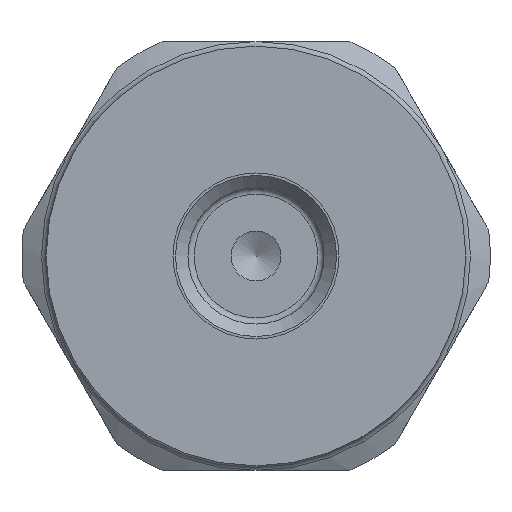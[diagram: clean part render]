
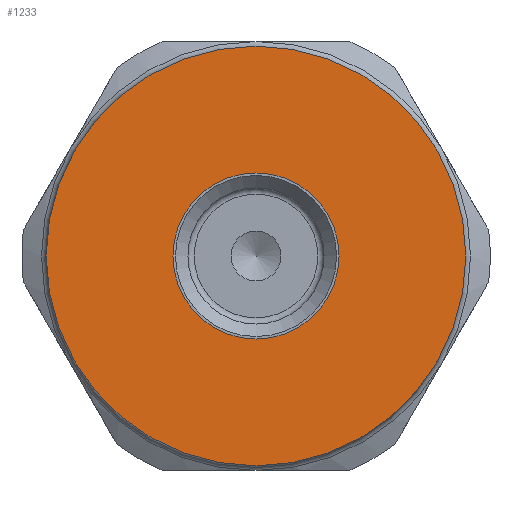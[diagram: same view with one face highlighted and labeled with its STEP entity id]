
A CAD part, front view. The second image highlights one B-rep face of the part: STEP entity #1233.
In plain terms, the highlighted planar face has unit normal (0, -1, 0).
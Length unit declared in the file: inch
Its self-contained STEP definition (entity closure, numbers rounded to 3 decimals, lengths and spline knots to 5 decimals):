
#74=FACE_BOUND('',#315,.T.);
#92=PLANE('',#1346);
#237=FACE_OUTER_BOUND('',#314,.T.);
#314=EDGE_LOOP('',(#853,#854));
#315=EDGE_LOOP('',(#855,#856));
#401=CIRCLE('',#1347,0.336);
#402=CIRCLE('',#1348,0.336);
#403=CIRCLE('',#1349,0.133);
#404=CIRCLE('',#1350,0.133);
#510=VERTEX_POINT('',#2091);
#511=VERTEX_POINT('',#2092);
#512=VERTEX_POINT('',#2095);
#513=VERTEX_POINT('',#2096);
#642=EDGE_CURVE('',#510,#511,#401,.T.);
#643=EDGE_CURVE('',#511,#510,#402,.T.);
#644=EDGE_CURVE('',#512,#513,#403,.T.);
#645=EDGE_CURVE('',#513,#512,#404,.T.);
#853=ORIENTED_EDGE('',*,*,#642,.T.);
#854=ORIENTED_EDGE('',*,*,#643,.T.);
#855=ORIENTED_EDGE('',*,*,#644,.T.);
#856=ORIENTED_EDGE('',*,*,#645,.T.);
#1233=ADVANCED_FACE('',(#237,#74),#92,.T.);
#1346=AXIS2_PLACEMENT_3D('',#2090,#1577,#1578);
#1347=AXIS2_PLACEMENT_3D('',#2093,#1579,#1580);
#1348=AXIS2_PLACEMENT_3D('',#2094,#1581,#1582);
#1349=AXIS2_PLACEMENT_3D('',#2097,#1583,#1584);
#1350=AXIS2_PLACEMENT_3D('',#2098,#1585,#1586);
#1577=DIRECTION('center_axis',(0.,-1.,0.));
#1578=DIRECTION('ref_axis',(0.,0.,-1.));
#1579=DIRECTION('center_axis',(0.,-1.,0.));
#1580=DIRECTION('ref_axis',(1.,0.,0.));
#1581=DIRECTION('center_axis',(0.,-1.,0.));
#1582=DIRECTION('ref_axis',(1.,0.,0.));
#1583=DIRECTION('center_axis',(0.,1.,0.));
#1584=DIRECTION('ref_axis',(1.,0.,0.));
#1585=DIRECTION('center_axis',(0.,1.,0.));
#1586=DIRECTION('ref_axis',(1.,0.,0.));
#2090=CARTESIAN_POINT('Origin',(0.168,-0.5,0.));
#2091=CARTESIAN_POINT('',(0.336,-0.5,0.));
#2092=CARTESIAN_POINT('',(-0.336,-0.5,0.));
#2093=CARTESIAN_POINT('Origin',(0.,-0.5,0.));
#2094=CARTESIAN_POINT('Origin',(0.,-0.5,0.));
#2095=CARTESIAN_POINT('',(0.133,-0.5,0.));
#2096=CARTESIAN_POINT('',(-0.133,-0.5,0.));
#2097=CARTESIAN_POINT('Origin',(0.,-0.5,0.));
#2098=CARTESIAN_POINT('Origin',(0.,-0.5,0.));
